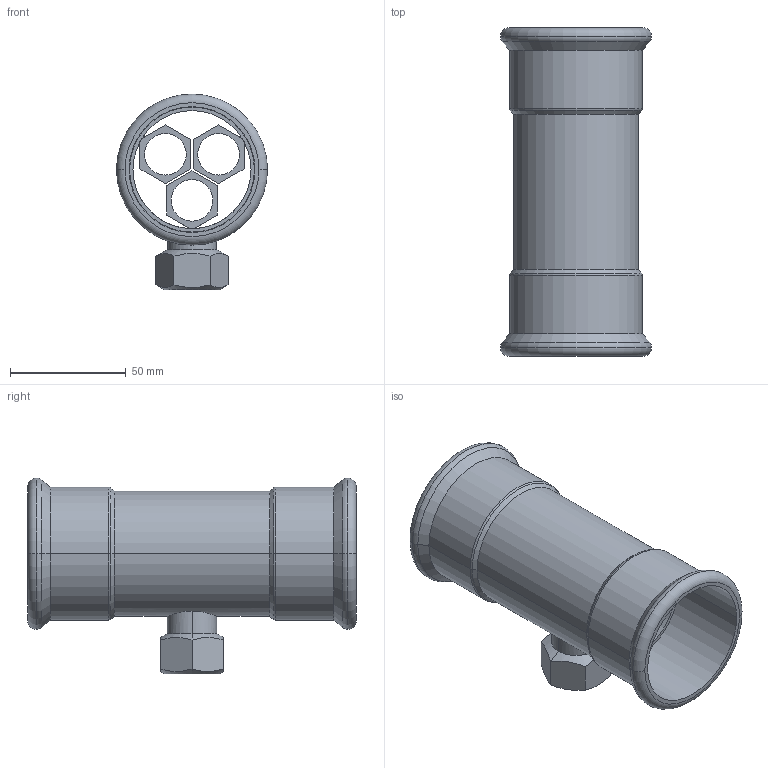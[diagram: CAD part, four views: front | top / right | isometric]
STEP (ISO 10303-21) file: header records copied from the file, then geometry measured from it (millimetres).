
FILE_DESCRIPTION(('OneSpaceDesigner STEP Export'),'2;1');
FILE_NAME('R2718 54xRp1-2x54.stp','2010-06-10T10:08:21',(''),(''),'OneSpace Designer STEP processor for AP214 (Solid Model)','OneSpace Modeling 15.00A 14-Mar-2007 (C) CoCreate Software GmbH','');
FILE_SCHEMA(('AUTOMOTIVE_DESIGN { 1 0 10303 214 1 1 1 1 }'));
Length unit declared in the file: millimetre
Products named in the file (2): R2718_54xRp1-2x54
Assembly tree (1 placements, depth 2):
  R2718_54xRp1-2x54
    R2718_54xRp1-2x54
Bounding box: 65.3 x 142 x 84.65 mm (x, y, z)
Volume: 55286.6 mm3; surface area: 59735.5 mm2
Topology: 1 solids, 1 shells, 181 faces, 456 edges, 291 vertices
Faces by surface type: plane 93, cylinder 56, cone 20, torus 12
Entity records: 6807 total; most frequent: CARTESIAN_POINT 2785, ORIENTED_EDGE 912, DIRECTION 699, EDGE_CURVE 456, VERTEX_POINT 291, VECTOR 279, LINE 279, EDGE_LOOP 215
